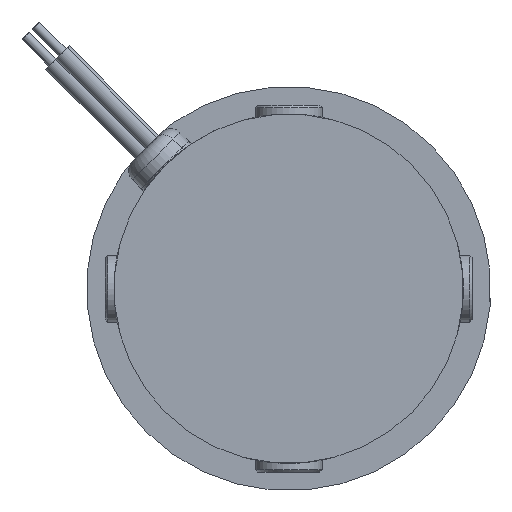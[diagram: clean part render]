
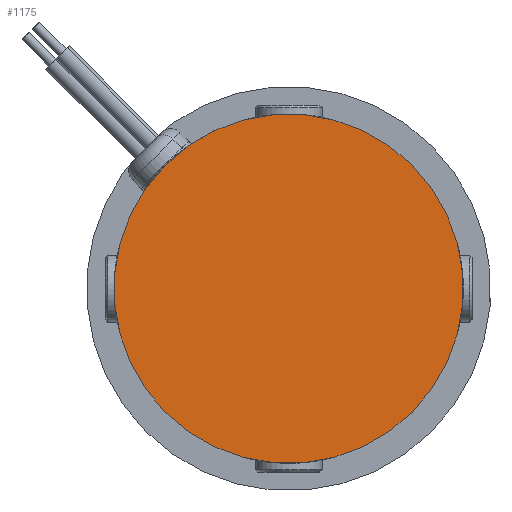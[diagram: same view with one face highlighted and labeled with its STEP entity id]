
A CAD part, left-side view. The second image highlights one B-rep face of the part: STEP entity #1175.
In plain terms, the highlighted planar face has unit normal (-1, 0, 0).
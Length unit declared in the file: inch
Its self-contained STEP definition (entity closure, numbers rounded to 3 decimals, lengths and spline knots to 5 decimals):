
#78 = CARTESIAN_POINT ( 'NONE',  ( -2.13486, 3.00682, 6.0551 ) ) ;
#210 = CIRCLE ( 'NONE', #664, 1.37795 ) ;
#318 = CARTESIAN_POINT ( 'NONE',  ( -2.13486, 3.98118, 5.08074 ) ) ;
#664 = AXIS2_PLACEMENT_3D ( 'NONE', #78, #10462, #874 ) ;
#874 = DIRECTION ( 'NONE',  ( 0., -0.707, 0.707 ) ) ;
#1175 = ADVANCED_FACE ( 'NONE', ( #3659 ), #10348, .F. ) ;
#1394 = DIRECTION ( 'NONE',  ( 1., 0., 0. ) ) ;
#2128 = CARTESIAN_POINT ( 'NONE',  ( -2.13486, 3.00682, 6.0551 ) ) ;
#2273 = CARTESIAN_POINT ( 'NONE',  ( -2.13486, 3.00682, 6.0551 ) ) ;
#3176 = CIRCLE ( 'NONE', #7006, 1.37795 ) ;
#3233 = VERTEX_POINT ( 'NONE', #318 ) ;
#3466 = VERTEX_POINT ( 'NONE', #8074 ) ;
#3659 = FACE_OUTER_BOUND ( 'NONE', #4220, .T. ) ;
#4220 = EDGE_LOOP ( 'NONE', ( #4442, #10346 ) ) ;
#4312 = EDGE_CURVE ( 'NONE', #3466, #3233, #210, .T. ) ;
#4442 = ORIENTED_EDGE ( 'NONE', *, *, #9097, .F. ) ;
#4753 = AXIS2_PLACEMENT_3D ( 'NONE', #2273, #1394, #5528 ) ;
#5222 = DIRECTION ( 'NONE',  ( 0., -0.707, 0.707 ) ) ;
#5528 = DIRECTION ( 'NONE',  ( 0., -0.707, 0.707 ) ) ;
#7006 = AXIS2_PLACEMENT_3D ( 'NONE', #2128, #9365, #5222 ) ;
#8074 = CARTESIAN_POINT ( 'NONE',  ( -2.13486, 2.03246, 7.02946 ) ) ;
#9097 = EDGE_CURVE ( 'NONE', #3233, #3466, #3176, .T. ) ;
#9365 = DIRECTION ( 'NONE',  ( 1., 0., 0. ) ) ;
#10346 = ORIENTED_EDGE ( 'NONE', *, *, #4312, .F. ) ;
#10348 = PLANE ( 'NONE',  #4753 ) ;
#10462 = DIRECTION ( 'NONE',  ( 1., 0., 0. ) ) ;
